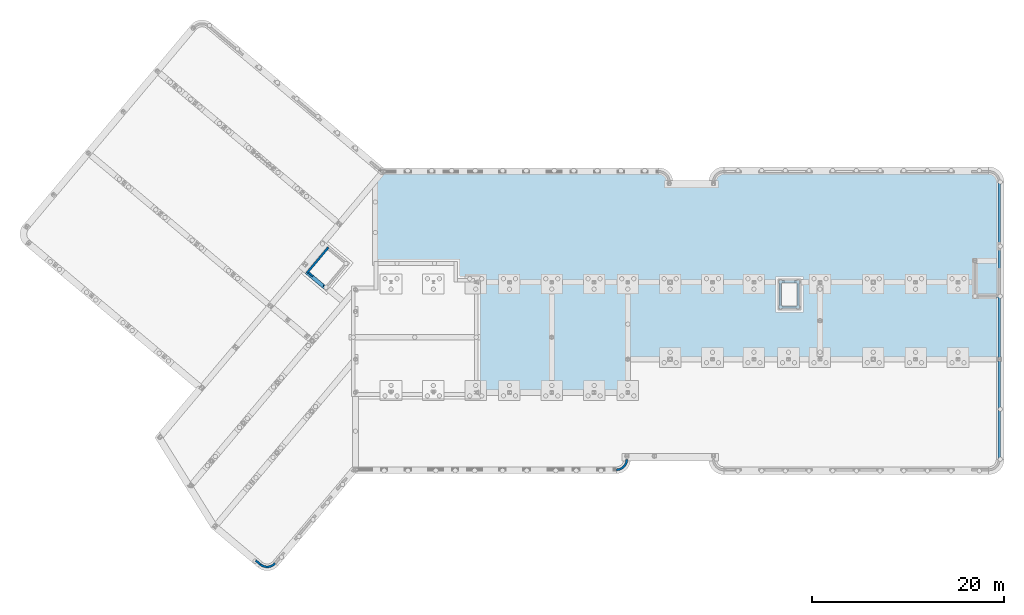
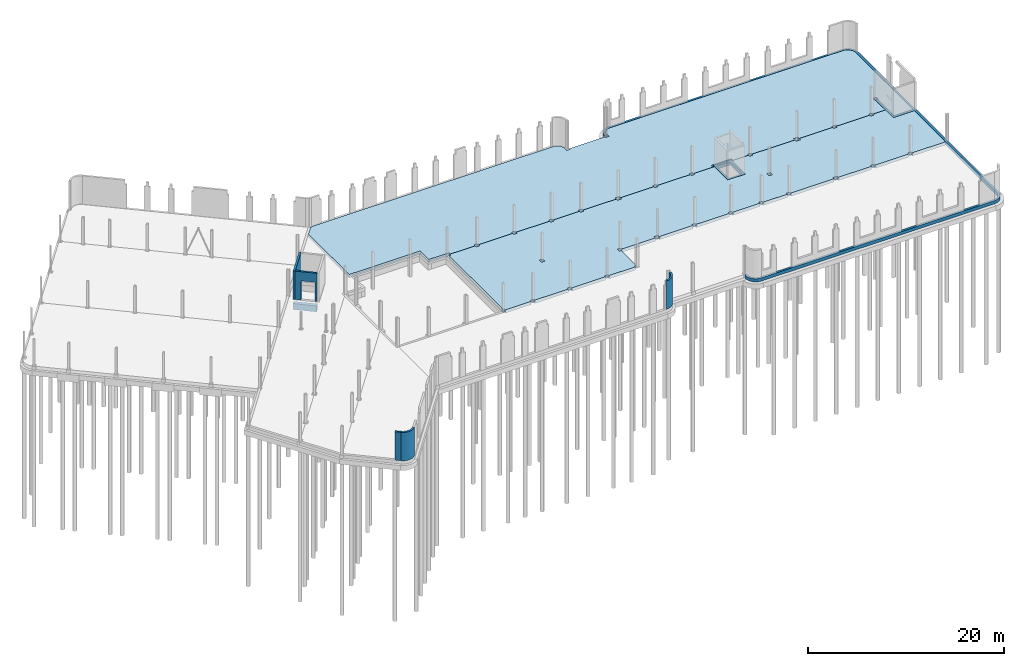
# One storey, part 21 of 26: 6 walls, 4 slabs, 2 openings.
"""IFC2X3 building model written with IfcOpenShell, lengths in millimetres."""

from ifc_helpers import new_model, entity, si_unit, converted_unit, derived_unit, direction, frame, frame_2d, origin, origin_2d_with_axis, place, context, subcontext, project, spatial, polyline, circle_curve, parameter, trimmed, segment, composite_curve, rectangle, outline, extrude, boolean, material, layer, layer_set, layer_usage, type_object, element, save


model = new_model("IFC2X3")

# Units and contexts
model_context = context("Model", 3, precision=0.01, world=origin(), true_north=direction((6.123031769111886e-17, 1.0)))
body_context = subcontext(model_context, "Body", "Model", "MODEL_VIEW")
ifc_project = project(units=[si_unit("LENGTHUNIT", "METRE", prefix="MILLI"), si_unit("AREAUNIT", "SQUARE_METRE"), si_unit("VOLUMEUNIT", "CUBIC_METRE"), derived_unit("MASSDENSITYUNIT", [(si_unit("MASSUNIT", "GRAM", prefix="KILO"), 1), (si_unit("LENGTHUNIT", "METRE"), -3)]), si_unit("MASSUNIT", "GRAM", prefix="KILO"), converted_unit("PLANEANGLEUNIT", "DEGREE", entity("IfcPlaneAngleMeasure", 0.017453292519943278), si_unit("PLANEANGLEUNIT", "RADIAN"), dimensions=[0, 0, 0, 0, 0, 0, 0])], contexts=[model_context])

# Site, building, storey
site_placement = place(None, origin())
site = spatial("IfcSite", under=ifc_project, at=site_placement, Name="Default", CompositionType="ELEMENT")
building_placement = place(site_placement, origin())
building = spatial("IfcBuilding", under=site, at=building_placement, Name="AT constructie", CompositionType="ELEMENT")
storey_placement = place(building_placement, origin())
storey = spatial("IfcBuildingStorey", under=building, at=storey_placement, Name="00 begane grond", CompositionType="ELEMENT", Elevation=-1.0828671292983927e-12)

# Slab
ifc_material_1 = material(Name="f2_beton ihwg_gen")
ifc_layer_1 = layer(ifc_material_1, 400.0)
ifc_layer_set_1 = layer_set([ifc_layer_1], Name="Floor:NLRS_23_FL_gewapend beton_400_opstort gen_AT")
ifc_layer_usage_1 = layer_usage(ifc_layer_set_1, "AXIS3", "POSITIVE", 0.0)
slab_type_1 = type_object("IfcSlabType", Name="NLRS_23_FL_gewapend beton_400_opstort gen_AT", PredefinedType="FLOOR", material=ifc_layer_set_1)
slab_1_placement = place(storey_placement, frame((20661.89347021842, 1584.4521505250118, -450.0)))
element("IfcSlab", 1, at=slab_1_placement, inside=storey, type_object=slab_type_1, material=ifc_layer_usage_1, Name="Floor:NLRS_23_FL_gewapend beton_400_opstort gen_AT", ObjectType="Floor:NLRS_23_FL_gewapend beton_400_opstort gen_AT", PredefinedType="FLOOR", context=body_context, shape_type="SweptSolid", body=[
    extrude(outline(composite_curve([segment(trimmed(circle_curve(frame_2d((-42542.49058044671, -17033.868130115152), x_axis=(-1.0, 0.0)), 1200.0000000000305), [parameter(359.9999999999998)], [parameter(89.99999999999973)], True, "PARAMETER"), True, "CONTINUOUS"), segment(polyline([(-42542.49058044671, -18233.8681301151), (-15042.490580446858, -18233.868130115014)]), True, "CONTINUOUS"), segment(trimmed(circle_curve(frame_2d((-15042.490580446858, -17033.86813011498), x_axis=(-1.0, 0.0)), 1200.0000000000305), [parameter(90.00000000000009)], [parameter(179.99999999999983)], True, "PARAMETER"), True, "CONTINUOUS"), segment(polyline([(-13842.490580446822, -17033.86813011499), (-13842.490580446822, -16898.868127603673)]), True, "CONTINUOUS"), segment(polyline([(-13842.490580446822, -16898.868127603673), (-14092.490580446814, -16898.868127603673)]), True, "CONTINUOUS"), segment(polyline([(-14092.490580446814, -16898.868127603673), (-14092.490580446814, -17033.86813011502)]), True, "CONTINUOUS"), segment(trimmed(circle_curve(frame_2d((-15042.490580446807, -17033.86813011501), x_axis=(-1.0, 0.0)), 950.0000000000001), [parameter(90.00000000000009)], [parameter(179.99999999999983)], True, "PARAMETER"), False, "CONTINUOUS"), segment(polyline([(-15042.490580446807, -17983.86813011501), (-42512.49058044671, -17983.8681301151)]), True, "CONTINUOUS"), segment(trimmed(circle_curve(frame_2d((-42512.49058044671, -17003.868130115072), x_axis=(-1.0, 0.0)), 980.0000000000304), [parameter(359.9999999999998)], [parameter(89.99999999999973)], True, "PARAMETER"), False, "CONTINUOUS"), segment(polyline([(-43492.490580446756, -17003.868130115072), (-43492.490580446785, -215.86813011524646)]), True, "CONTINUOUS"), segment(polyline([(-43492.490580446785, -215.86813011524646), (-40996.49058423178, -215.86813011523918)]), True, "CONTINUOUS"), segment(polyline([(-40996.49058423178, -215.86813011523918), (-40996.49058423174, 3396.1318698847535)]), True, "CONTINUOUS"), segment(polyline([(-40996.49058423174, 3396.1318698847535), (-41246.49058423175, 3396.1318698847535)]), True, "CONTINUOUS"), segment(polyline([(-41246.49058423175, 3396.1318698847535), (-41246.49058423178, 34.13186988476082)]), True, "CONTINUOUS"), segment(polyline([(-41246.49058423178, 34.13186988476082), (-43492.490580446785, 34.131869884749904)]), True, "CONTINUOUS"), segment(polyline([(-43492.490580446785, 34.131869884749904), (-43492.4905804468, 11736.131869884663)]), True, "CONTINUOUS"), segment(trimmed(circle_curve(frame_2d((-42512.49058044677, 11736.131869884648), x_axis=(-1.0, 0.0)), 980.0000000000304), [parameter(269.9999999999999)], [parameter(0.0)], True, "PARAMETER"), False, "CONTINUOUS"), segment(polyline([(-42512.49058044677, 12716.131869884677), (-15042.490580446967, 12716.131869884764)]), True, "CONTINUOUS"), segment(trimmed(circle_curve(frame_2d((-15042.490580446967, 11766.131869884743), x_axis=(-1.0, 0.0)), 950.0000000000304), [parameter(180.00000000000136)], [parameter(269.9999999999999)], True, "PARAMETER"), False, "CONTINUOUS"), segment(polyline([(-14092.490580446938, 11766.131869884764), (-13842.490580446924, 11766.131869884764)]), True, "CONTINUOUS"), segment(trimmed(circle_curve(frame_2d((-15042.490580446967, 11766.131869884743), x_axis=(-1.0, 0.0)), 1200.0000000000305), [parameter(180.00000000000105)], [parameter(269.9999999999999)], True, "PARAMETER"), True, "CONTINUOUS"), segment(polyline([(-15042.490580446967, 12966.131869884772), (-42542.490580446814, 12966.131869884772)]), True, "CONTINUOUS"), segment(trimmed(circle_curve(frame_2d((-42542.490580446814, 11766.131869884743), x_axis=(-1.0, 0.0)), 1200.0000000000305), [parameter(269.9999999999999)], [parameter(0.0)], True, "PARAMETER"), True, "CONTINUOUS"), segment(polyline([(-43742.4905804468, 11766.131869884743), (-43742.49058044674, -17033.868130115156)]), True, "CONTINUOUS")], self_intersect=False)), frame((43742.49058044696, 28320.45948811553, 400.0), z_axis=(0.0, 0.0, -1.0), x_axis=(-1.0, 0.0, 0.0)), (0.0, 0.0, 1.0), 400.0),
])

# Slab, opening
ifc_layer_usage_2 = layer_usage(ifc_layer_set_1, "AXIS3", "POSITIVE", 0.0)
slab_2_placement = place(storey_placement, origin())
slab_2 = element("IfcSlab", 2, at=slab_2_placement, inside=storey, type_object=slab_type_1, material=ifc_layer_usage_2, Name="Floor:NLRS_23_FL_gewapend beton_400_opstort gen_AT", ObjectType="Floor:NLRS_23_FL_gewapend beton_400_opstort gen_AT", PredefinedType="FLOOR", context=body_context, shape_type="SweptSolid", body=[
    boolean("DIFFERENCE", extrude(rectangle(XDim=2922.0000000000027, YDim=2099.9999999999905, at=frame_2d((-4.320099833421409e-12, 0.0), x_axis=(1.0, 0.0))), frame((86230.87463111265, 29996.043508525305, -50.0), z_axis=(0.0, 0.0, -1.0), x_axis=(0.0, 1.0, 0.0)), (0.0, 0.0, 1.0), 400.0), extrude(rectangle(XDim=2421.999999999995, YDim=1599.9999999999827, at=frame_2d((0.0, 8.697043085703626e-12), x_axis=(1.0, 0.0))), frame((86230.87463111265, 29996.043508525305, -450.0), z_axis=(0.0, 0.0, 1.0), x_axis=(0.0, 1.0, 0.0)), (0.0, 0.0, 1.0), 400.0)),
])
opening_1_placement = place(slab_2_placement, origin())
element("IfcOpeningElement", 3, at=opening_1_placement, cuts=slab_2, Name="Floor:NLRS_23_FL_gewapend beton_400_opstort gen_AT", ObjectType="Opening", context=body_context, shape_type="SweptSolid", body=[
    extrude(rectangle(XDim=1600.0, YDim=2421.999999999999, at=frame_2d((-8.697043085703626e-12, 0.0), x_axis=(1.0, 0.0))), frame((86230.87463111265, 29996.043508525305, -50.0), z_axis=(0.0, 0.0, -1.0), x_axis=(1.0, 0.0, 0.0)), (0.0, 0.0, 1.0), 400.0),
])

# Slabs
ifc_material_2 = material(Name="f2_beton_prefab_gen")
ifc_layer_2 = layer(ifc_material_2, 260.0)
ifc_material_3 = material(Name="n7_isolatie_gen")
ifc_layer_3 = layer(ifc_material_3, 140.0)
ifc_layer_set_2 = layer_set([ifc_layer_2, ifc_layer_3], Name="Floor:NLRS_23_FL_geissoleerde kanaalplaatvloer 260_gen_AT")
ifc_layer_usage_3 = layer_usage(ifc_layer_set_2, "AXIS3", "POSITIVE", 0.0)
slab_type_2 = type_object("IfcSlabType", Name="NLRS_23_FL_geissoleerde kanaalplaatvloer 260_gen_AT", PredefinedType="FLOOR", material=ifc_layer_set_2)
slab_3_placement = place(storey_placement, origin())
element("IfcSlab", 4, at=slab_3_placement, inside=storey, type_object=slab_type_2, material=ifc_layer_usage_3, Name="Floor:NLRS_23_FL_geissoleerde kanaalplaatvloer 260_gen_AT", ObjectType="Floor:NLRS_23_FL_geissoleerde kanaalplaatvloer 260_gen_AT", PredefinedType="FLOOR", context=body_context, shape_type="SweptSolid", body=[
    extrude(outline(composite_curve([segment(polyline([(-641.9511115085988, -36275.22809741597), (7699.137809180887, -36275.22809741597)]), True, "CONTINUOUS"), segment(polyline([(7699.137809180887, -36275.22809741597), (8656.548888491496, -35471.864813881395)]), True, "CONTINUOUS"), segment(polyline([(8656.548888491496, -35471.864813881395), (8656.548888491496, -35235.78584688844)]), True, "CONTINUOUS"), segment(polyline([(8656.548888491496, -35235.78584688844), (8708.048888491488, -35235.78584688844)]), True, "CONTINUOUS"), segment(polyline([(8708.048888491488, -35235.78584688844), (8708.048888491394, -6845.2280974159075)]), True, "CONTINUOUS"), segment(trimmed(circle_curve(frame_2d((7758.048888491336, -6845.2280974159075), x_axis=(1.0, 0.0)), 950.0000000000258), [parameter(0.0)], [parameter(85.77437608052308)], True, "PARAMETER"), True, "CONTINUOUS"), segment(polyline([(7828.048888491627, -5897.810554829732), (7828.048888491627, -5941.22809921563)]), True, "CONTINUOUS"), segment(polyline([(7828.048888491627, -5941.22809921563), (7428.048888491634, -5941.22809921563)]), True, "CONTINUOUS"), segment(polyline([(7428.048888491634, -5941.22809921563), (7428.048888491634, -5541.22809921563)]), True, "CONTINUOUS"), segment(polyline([(7428.048888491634, -5541.22809921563), (7558.0488884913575, -5541.22809921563)]), True, "CONTINUOUS"), segment(polyline([(7558.0488884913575, -5541.22809921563), (7558.0488884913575, -1338.2280974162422)]), True, "CONTINUOUS"), segment(polyline([(7558.0488884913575, -1338.2280974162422), (7428.048888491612, -1338.2280974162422)]), True, "CONTINUOUS"), segment(polyline([(7428.048888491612, -1338.2280974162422), (7428.048888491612, -938.2280974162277)]), True, "CONTINUOUS"), segment(polyline([(7428.048888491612, -938.2280974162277), (7828.048888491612, -938.2280974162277)]), True, "CONTINUOUS"), segment(polyline([(7828.048888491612, -938.2280974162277), (7828.048888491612, -992.6456400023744)]), True, "CONTINUOUS"), segment(trimmed(circle_curve(frame_2d((7758.048888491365, -45.22809741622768), x_axis=(0.07368421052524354, -0.9972816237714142)), 949.999999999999), [parameter(0.0)], [parameter(85.77437608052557)], True, "PARAMETER"), True, "CONTINUOUS"), segment(polyline([(8708.048888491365, -45.22809741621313), (8708.048888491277, 27424.771902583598)]), True, "CONTINUOUS"), segment(trimmed(circle_curve(frame_2d((7728.048888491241, 27424.771902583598), x_axis=(1.0, 0.0)), 980.0000000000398), [parameter(0.0)], [parameter(89.99999999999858)], True, "PARAMETER"), True, "CONTINUOUS"), segment(polyline([(7728.048888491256, 28404.771902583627), (-3973.951111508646, 28404.771902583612)]), True, "CONTINUOUS"), segment(polyline([(-3973.951111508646, 28404.771902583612), (-3973.951111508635, 26158.77190636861)]), True, "CONTINUOUS"), segment(polyline([(-3973.951111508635, 26158.77190636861), (-611.9511115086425, 26158.77190636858)]), True, "CONTINUOUS"), segment(polyline([(-611.9511115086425, 26158.77190636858), (-611.9511115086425, 26233.77190457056)]), True, "CONTINUOUS"), segment(polyline([(-611.9511115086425, 26233.77190457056), (-211.9511115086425, 26233.77190457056)]), True, "CONTINUOUS"), segment(polyline([(-211.9511115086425, 26233.77190457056), (-211.9511115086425, 25833.77190457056)]), True, "CONTINUOUS"), segment(polyline([(-211.9511115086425, 25833.77190457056), (-611.9511115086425, 25833.77190457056)]), True, "CONTINUOUS"), segment(polyline([(-611.9511115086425, 25833.77190457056), (-611.9511115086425, 25908.771906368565)]), True, "CONTINUOUS"), segment(polyline([(-611.9511115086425, 25908.771906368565), (-2641.951111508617, 25908.77190636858)]), True, "CONTINUOUS"), segment(polyline([(-2641.951111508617, 25908.77190636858), (-2641.951111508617, 24460.271900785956)]), True, "CONTINUOUS"), segment(polyline([(-2641.951111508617, 24460.271900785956), (-2441.951111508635, 24460.271900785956)]), True, "CONTINUOUS"), segment(polyline([(-2441.951111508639, 24460.271900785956), (-2441.951111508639, 24060.27190078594)]), True, "CONTINUOUS"), segment(polyline([(-2441.951111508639, 24060.27190078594), (-2641.951111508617, 24060.27190078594)]), True, "CONTINUOUS"), segment(polyline([(-2641.951111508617, 24060.27190078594), (-2641.951111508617, 20054.771902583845)]), True, "CONTINUOUS"), segment(polyline([(-2641.951111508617, 20054.771902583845), (-2441.95111150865, 20054.771902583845)]), True, "CONTINUOUS"), segment(polyline([(-2441.9511115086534, 20054.771902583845), (-2441.9511115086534, 19654.77190258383)]), True, "CONTINUOUS"), segment(polyline([(-2441.9511115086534, 19654.77190258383), (-2641.951111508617, 19654.77190258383)]), True, "CONTINUOUS"), segment(polyline([(-2641.951111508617, 19654.77190258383), (-2641.9511115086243, 15704.771902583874)]), True, "CONTINUOUS"), segment(polyline([(-2641.9511115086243, 15704.771902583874), (-2391.951111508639, 15704.771902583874)]), True, "CONTINUOUS"), segment(polyline([(-2391.951111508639, 15704.771902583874), (-2391.951111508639, 15204.77190258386)]), True, "CONTINUOUS"), segment(polyline([(-2391.951111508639, 15204.771902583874), (-2641.9511115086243, 15204.771902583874)]), True, "CONTINUOUS"), segment(polyline([(-2641.9511115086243, 15204.771902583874), (-2641.9511115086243, 10115.271902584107)]), True, "CONTINUOUS"), segment(polyline([(-2641.9511115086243, 10115.271902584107), (-2441.9511115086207, 10115.271902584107)]), True, "CONTINUOUS"), segment(polyline([(-2441.9511115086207, 10115.271902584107), (-2441.9511115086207, 9715.271902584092)]), True, "CONTINUOUS"), segment(polyline([(-2441.9511115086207, 9715.271902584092), (-2641.9511115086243, 9715.271902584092)]), True, "CONTINUOUS"), segment(polyline([(-2641.9511115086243, 9715.271902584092), (-2641.9511115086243, 7938.771902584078)]), True, "CONTINUOUS"), segment(polyline([(-2641.9511115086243, 7938.771902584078), (-2305.9511115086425, 7938.771902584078)]), True, "CONTINUOUS"), segment(polyline([(-2305.9511115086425, 7938.771902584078), (-2305.951111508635, 5538.771902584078)]), True, "CONTINUOUS"), segment(polyline([(-2305.951111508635, 5538.771902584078), (-2641.9511115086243, 5538.771902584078)]), True, "CONTINUOUS"), segment(polyline([(-2641.9511115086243, 5538.771902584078), (-2641.9511115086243, 3254.7719025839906)]), True, "CONTINUOUS"), segment(polyline([(-2641.9511115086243, 3254.7719025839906), (-2441.951111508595, 3254.7719025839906)]), True, "CONTINUOUS"), segment(polyline([(-2441.951111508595, 3254.7719025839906), (-2441.951111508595, 2854.771902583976)]), True, "CONTINUOUS"), segment(polyline([(-2441.951111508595, 2854.771902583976), (-2641.9511115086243, 2854.771902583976)]), True, "CONTINUOUS"), segment(polyline([(-2641.9511115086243, 2854.771902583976), (-2641.9511115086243, -1045.2280974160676)]), True, "CONTINUOUS"), segment(polyline([(-2641.9511115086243, -1045.2280974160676), (-2441.9511115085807, -1045.2280974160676)]), True, "CONTINUOUS"), segment(polyline([(-2441.9511115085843, -1045.2280974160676), (-2441.9511115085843, -1445.2280974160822)]), True, "CONTINUOUS"), segment(polyline([(-2441.9511115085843, -1445.2280974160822), (-2641.951111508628, -1445.2280974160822)]), True, "CONTINUOUS"), segment(polyline([(-2641.9511115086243, -1445.2280974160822), (-2641.951111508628, -5395.228097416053)]), True, "CONTINUOUS"), segment(polyline([(-2641.951111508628, -5395.2280974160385), (-2391.9511115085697, -5395.2280974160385)]), True, "CONTINUOUS"), segment(polyline([(-2391.9511115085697, -5395.2280974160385), (-2391.9511115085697, -5895.228097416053)]), True, "CONTINUOUS"), segment(polyline([(-2391.9511115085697, -5895.228097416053), (-2641.951111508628, -5895.228097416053)]), True, "CONTINUOUS"), segment(polyline([(-2641.951111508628, -5895.228097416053), (-2641.951111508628, -9845.228097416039)]), True, "CONTINUOUS"), segment(polyline([(-2641.951111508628, -9845.228097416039), (-2441.951111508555, -9845.228097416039)]), True, "CONTINUOUS"), segment(polyline([(-2441.951111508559, -9845.228097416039), (-2441.951111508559, -10245.228097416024)]), True, "CONTINUOUS"), segment(polyline([(-2441.951111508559, -10245.228097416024), (-2641.951111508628, -10245.228097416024)]), True, "CONTINUOUS"), segment(polyline([(-2641.951111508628, -10245.228097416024), (-2641.951111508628, -13345.228097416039)]), True, "CONTINUOUS"), segment(polyline([(-2641.951111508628, -13345.228097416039), (-2441.9511115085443, -13345.228097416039)]), True, "CONTINUOUS"), segment(polyline([(-2441.9511115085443, -13345.228097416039), (-2441.9511115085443, -13745.228097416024)]), True, "CONTINUOUS"), segment(polyline([(-2441.9511115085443, -13745.228097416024), (-2641.951111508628, -13745.228097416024)]), True, "CONTINUOUS"), segment(polyline([(-2641.951111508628, -13745.228097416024), (-2641.951111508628, -17745.22809741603)]), True, "CONTINUOUS"), segment(polyline([(-2641.951111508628, -17745.228097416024), (-2441.9511115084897, -17745.228097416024)]), True, "CONTINUOUS"), segment(polyline([(-2441.9511115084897, -17745.228097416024), (-2441.9511115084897, -18145.228097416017)]), True, "CONTINUOUS"), segment(polyline([(-2441.9511115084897, -18145.228097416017), (-2641.9511115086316, -18145.228097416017)]), True, "CONTINUOUS"), segment(polyline([(-2641.9511115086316, -18145.228097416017), (-2641.9511115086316, -22145.22809741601)]), True, "CONTINUOUS"), segment(polyline([(-2641.9511115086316, -22145.22809741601), (-2441.951111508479, -22145.22809741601)]), True, "CONTINUOUS"), segment(polyline([(-2441.9511115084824, -22145.22809741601), (-2441.9511115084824, -22545.228097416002)]), True, "CONTINUOUS"), segment(polyline([(-2441.9511115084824, -22545.228097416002), (-2641.9511115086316, -22545.228097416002)]), True, "CONTINUOUS"), segment(polyline([(-2641.9511115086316, -22545.228097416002), (-2641.9511115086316, -25495.22809741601)]), True, "CONTINUOUS"), segment(polyline([(-2641.9511115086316, -25495.22809741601), (-2391.9511115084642, -25495.22809741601)]), True, "CONTINUOUS"), segment(polyline([(-2391.9511115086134, -25495.22809741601), (-2391.951111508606, -27875.228097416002)]), True, "CONTINUOUS"), segment(polyline([(-2391.951111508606, -27875.228097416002), (-641.951111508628, -27875.228097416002)]), True, "CONTINUOUS"), segment(polyline([(-641.951111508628, -27875.228097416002), (-641.9511115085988, -36275.22809741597)]), True, "CONTINUOUS")], self_intersect=False)), frame((79492.10272852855, 33912.99462003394, -50.0), z_axis=(0.0, 0.0, -1.0), x_axis=(0.0, 1.0, 0.0)), (0.0, 0.0, 1.0), 400.0),
])
ifc_layer_usage_4 = layer_usage(ifc_layer_set_2, "AXIS3", "POSITIVE", 0.0)
slab_4_placement = place(storey_placement, origin())
element("IfcSlab", 5, at=slab_4_placement, inside=storey, type_object=slab_type_2, material=ifc_layer_usage_4, Name="Floor:NLRS_23_FL_geissoleerde kanaalplaatvloer 260_gen_AT", ObjectType="Floor:NLRS_23_FL_geissoleerde kanaalplaatvloer 260_gen_AT", PredefinedType="FLOOR", context=body_context, shape_type="SweptSolid", body=[
    boolean("DIFFERENCE", boolean("DIFFERENCE", extrude(outline(polyline([(-6482.714285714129, -26090.366071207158), (4567.2857142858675, -26090.366071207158), (4567.2857142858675, -25940.366071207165), (4767.2857142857, -25940.366071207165), (4767.2857142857, -22890.36607120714), (4567.28571428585, -22890.36607120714), (4567.285714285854, -22490.366071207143), (4767.285714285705, -22490.366071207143), (4767.2857142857, -18490.36607120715), (4567.285714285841, -18490.36607120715), (4567.285714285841, -18090.366071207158), (4767.285714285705, -18090.366071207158), (4767.285714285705, -14090.366071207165), (4567.285714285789, -14090.366071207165), (4567.285714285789, -13690.366071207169), (4767.285714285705, -13690.366071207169), (4767.285714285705, -10590.366071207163), (4567.285714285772, -10590.366071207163), (4567.2857142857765, -10190.366071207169), (4767.285714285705, -10190.366071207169), (4767.285714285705, -6240.366071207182), (4517.285714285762, -6240.366071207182), (4517.285714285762, -5740.366071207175), (4767.285714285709, -5740.366071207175), (4767.285714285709, -1790.366071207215), (4567.285714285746, -1790.366071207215), (4567.28571428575, -1390.3660712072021), (4767.285714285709, -1390.3660712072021), (4767.285714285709, 2509.6339287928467), (4567.285714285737, 2509.6339287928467), (4567.285714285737, 2909.63392879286), (4767.285714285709, 2909.63392879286), (4767.285714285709, 5343.633928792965), (2031.28571428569, 5343.633928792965), (2031.2857142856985, 7443.633928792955), (4767.285714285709, 7443.633928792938), (4767.285714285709, 9370.133928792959), (4567.285714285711, 9370.133928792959), (4567.285714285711, 9770.133928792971), (4767.285714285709, 9770.133928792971), (4767.285714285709, 14859.633928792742), (4517.285714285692, 14859.633928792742), (4517.285714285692, 15359.63392879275), (4767.285714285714, 15359.633928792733), (4767.285714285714, 19309.6339287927), (4567.2857142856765, 19309.6339287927), (4567.285714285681, 19709.633928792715), (4767.285714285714, 19709.633928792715), (4767.285714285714, 23715.133926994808), (4567.285714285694, 23715.133926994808), (4567.285714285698, 24115.13392699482), (4767.285714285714, 24115.13392699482), (4767.285714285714, 25563.63393257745), (3185.285714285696, 25563.633932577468), (3185.2857142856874, 28059.63392879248), (-3032.7142857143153, 28059.63392879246), (-3032.7142857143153, 28012.13392699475), (-3232.714285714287, 28012.13392699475), (-3232.714285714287, 24115.133926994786), (-3032.714285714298, 24115.133926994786), (-3032.714285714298, 23715.13392699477), (-3232.7142857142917, 23715.13392699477), (-3232.714285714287, 19715.133926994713), (-3032.714285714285, 19715.133926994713), (-3032.7142857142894, 19315.1339269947), (-3232.7142857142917, 19315.1339269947), (-3232.7142857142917, 15365.13392699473), (-2982.714285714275, 15365.13392699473), (-2982.714285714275, 14865.133926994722), (-3232.7142857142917, 14865.13392699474), (-3232.7142857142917, 9770.133928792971), (-3032.714285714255, 9770.133928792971), (-3032.714285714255, 9370.133928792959), (-3232.7142857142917, 9370.133928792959), (-3232.7142857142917, 6509.633928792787), (-3032.7142857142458, 6509.633928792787), (-3032.7142857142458, 6109.633928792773), (-3232.714285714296, 6109.633928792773), (-3232.7142857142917, 2909.6339287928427), (-3032.714285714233, 2909.6339287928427), (-3032.714285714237, 2509.6339287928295), (-3232.714285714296, 2509.6339287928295), (-3232.714285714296, -1390.3660712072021), (-3032.71428571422, -1390.3660712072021), (-3032.71428571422, -1790.366071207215), (-3232.714285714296, -1790.366071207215), (-3232.714285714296, -5740.366071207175), (-2982.71428571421, -5740.366071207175), (-2982.71428571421, -6240.366071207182), (-3232.714285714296, -6240.366071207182), (-3232.714285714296, -10190.366071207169), (-3032.714285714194, -10190.366071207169), (-3032.714285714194, -10590.366071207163), (-3432.714285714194, -10590.366071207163), (-3432.714285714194, -10390.366071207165), (-6482.714285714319, -10390.366071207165), (-6482.714285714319, -10590.366071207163), (-6682.714285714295, -10590.366071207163), (-6682.714285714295, -13690.366071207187), (-6482.714285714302, -13690.366071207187), (-6482.714285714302, -14090.366071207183), (-6682.714285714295, -14090.366071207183), (-6682.714285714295, -18090.366071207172), (-6482.714285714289, -18090.366071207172), (-6482.7142857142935, -18490.36607120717), (-6682.7142857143, -18490.36607120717), (-6682.7142857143, -22490.36607120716), (-6482.714285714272, -22490.36607120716), (-6482.714285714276, -22890.366071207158), (-6682.7142857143, -22890.366071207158), (-6682.7142857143, -25940.366071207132), (-6482.714285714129, -25940.366071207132), (-6482.714285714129, -26090.366071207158)])), frame((79837.24070231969, 26503.75779423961, -50.0), z_axis=(0.0, 0.0, -1.0), x_axis=(0.0, 1.0, 0.0)), (0.0, 0.0, 1.0), 400.0), extrude(rectangle(XDim=399.9999999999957, YDim=399.9999999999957, at=frame_2d((0.0, 8.668621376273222e-12), x_axis=(1.0, 0.0))), frame((61546.874631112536, 25546.04350852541, -450.0), z_axis=(0.0, 0.0, 1.0), x_axis=(0.0, 1.0, 0.0)), (0.0, 0.0, 1.0), 400.0)), extrude(rectangle(XDim=399.9999999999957, YDim=400.000000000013, at=origin_2d_with_axis()), frame((89407.37463111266, 27271.04350852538, -450.0), z_axis=(0.0, 0.0, 1.0), x_axis=(0.0, 1.0, 0.0)), (0.0, 0.0, 1.0), 400.0)),
])

# Walls
ifc_material_4 = material(Name="f1_kalkzandsteen_CS36")
ifc_layer_4 = layer(ifc_material_4, 214.0)
ifc_layer_set_3 = layer_set([ifc_layer_4], Name="Basic Wall:NLRS_22_WA_kalkzandsteen 214_CS36 gen_AT")
ifc_layer_usage_5 = layer_usage(ifc_layer_set_3, "AXIS2", "NEGATIVE", 107.0)
wall_type_1 = type_object("IfcWallType", Name="NLRS_22_WA_kalkzandsteen 214_CS36 gen_AT", PredefinedType="STANDARD", material=ifc_layer_set_3)
wall_1_placement = place(storey_placement, frame((69339.8746311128, 12871.043508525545, -50.0)))
element("IfcWallStandardCase", 6, at=wall_1_placement, inside=storey, type_object=wall_type_1, material=ifc_layer_usage_5, Name="Basic Wall:NLRS_22_WA_kalkzandsteen 214_CS36 gen_AT", ObjectType="Basic Wall:NLRS_22_WA_kalkzandsteen 214_CS36 gen_AT", context=body_context, shape_type="SweptSolid", body=[
    extrude(outline(composite_curve([segment(trimmed(circle_curve(frame_2d((-1093.0, 0.0), x_axis=(1.0, 0.0)), 1200.0000000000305), [parameter(269.9999999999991)], [parameter(359.99999999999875)], True, "PARAMETER"), True, "CONTINUOUS"), segment(polyline([(107.0, 0.0), (-107.0, 0.0)]), True, "CONTINUOUS"), segment(trimmed(circle_curve(frame_2d((-1093.0, 0.0), x_axis=(1.0, 0.0)), 986.0000000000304), [parameter(269.9999999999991)], [parameter(359.99999999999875)], True, "PARAMETER"), False, "CONTINUOUS"), segment(polyline([(-1093.0, -986.0), (-1093.0, -1200.0)]), True, "CONTINUOUS")], self_intersect=False)), origin(), (0.0, 0.0, 1.0), 3544.000000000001),
])
ifc_layer_usage_6 = layer_usage(ifc_layer_set_3, "AXIS2", "POSITIVE", -107.0)
wall_2_placement = place(storey_placement, frame((32794.092488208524, 2054.1612376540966, -50.0)))
element("IfcWallStandardCase", 7, at=wall_2_placement, inside=storey, type_object=wall_type_1, material=ifc_layer_usage_6, Name="Basic Wall:NLRS_22_WA_kalkzandsteen 214_CS36 gen_AT", ObjectType="Basic Wall:NLRS_22_WA_kalkzandsteen 214_CS36 gen_AT", context=body_context, shape_type="SweptSolid", body=[
    extrude(outline(composite_curve([segment(trimmed(circle_curve(frame_2d((-813.4140845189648, 730.0729601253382), x_axis=(1.0, 0.0)), 1200.0), [parameter(229.96819074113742)], [parameter(318.09070439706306)], True, "PARAMETER"), True, "CONTINUOUS"), segment(polyline([(79.62974111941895, -71.47100341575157), (-81.89912503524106, 68.95128898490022)]), True, "CONTINUOUS"), segment(trimmed(circle_curve(frame_2d((-813.4140845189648, 730.0729601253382), x_axis=(1.0, 0.0)), 986.0), [parameter(229.96819074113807)], [parameter(317.8936540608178)], True, "PARAMETER"), False, "CONTINUOUS"), segment(polyline([(-1447.6219056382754, -24.894880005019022), (-1585.269444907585, -188.75199743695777)]), True, "CONTINUOUS")], self_intersect=False)), origin(), (0.0, 0.0, 1.0), 3544.000000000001),
])
ifc_layer_usage_7 = layer_usage(ifc_layer_set_3, "AXIS2", "NEGATIVE", 107.0)
wall_3_placement = place(storey_placement, frame((31277.64682354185, 1947.3378115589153, -50.0), z_axis=(0.0, 0.0, 1.0), x_axis=(-0.7660444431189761, 0.6427876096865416, 0.0)))
element("IfcWallStandardCase", 8, at=wall_3_placement, inside=storey, type_object=wall_type_1, material=ifc_layer_usage_7, Name="Basic Wall:NLRS_22_WA_kalkzandsteen 214_CS36 gen_AT", ObjectType="Basic Wall:NLRS_22_WA_kalkzandsteen 214_CS36 gen_AT", context=body_context, shape_type="SweptSolid", body=[
    extrude(rectangle(XDim=645.0594038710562, YDim=214.0000000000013, at=frame_2d((322.5297019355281, -2.3447910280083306e-13), x_axis=(-1.0, 0.0))), origin(), (0.0, 0.0, 1.0), 3544.000000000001),
])
ifc_material_5 = material(Name="f1_kalkzandsteen_CS20")
ifc_layer_5 = layer(ifc_material_5, 214.0)
ifc_layer_set_4 = layer_set([ifc_layer_5], Name="Basic Wall:NLRS_22_WA_kalkzandsteen 214_CS20_gen_AT")
ifc_layer_usage_8 = layer_usage(ifc_layer_set_4, "AXIS2", "POSITIVE", -107.0)
wall_type_2 = type_object("IfcWallType", Name="NLRS_22_WA_kalkzandsteen 214_CS20_gen_AT", PredefinedType="STANDARD", material=ifc_layer_set_4)
wall_4_placement = place(storey_placement, frame((38336.94433207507, 34883.24807736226, -50.0), z_axis=(0.0, 0.0, 1.0), x_axis=(-0.6427876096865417, -0.7660444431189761, 0.0)))
element("IfcWallStandardCase", 9, at=wall_4_placement, inside=storey, type_object=wall_type_2, material=ifc_layer_usage_8, Name="Basic Wall:NLRS_22_WA_kalkzandsteen 214_CS20_gen_AT", ObjectType="Basic Wall:NLRS_22_WA_kalkzandsteen 214_CS20_gen_AT", context=body_context, shape_type="SweptSolid", body=[
    extrude(rectangle(XDim=3438.0000000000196, YDim=214.00000000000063, at=frame_2d((1719.0000000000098, 5.613287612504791e-13), x_axis=(-1.0, 0.0))), origin(), (0.0, 0.0, 1.0), 3544.000000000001),
])

# Wall, opening
ifc_layer_usage_9 = layer_usage(ifc_layer_set_4, "AXIS2", "POSITIVE", -107.0)
wall_5_placement = place(storey_placement, frame((36277.78555962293, 32262.775763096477, -50.0), z_axis=(0.0, 0.0, 1.0), x_axis=(0.7660444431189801, -0.6427876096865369, 0.0)))
wall_5 = element("IfcWallStandardCase", 10, at=wall_5_placement, inside=storey, type_object=wall_type_2, material=ifc_layer_usage_9, Name="Basic Wall:NLRS_22_WA_kalkzandsteen 214_CS20_gen_AT", ObjectType="Basic Wall:NLRS_22_WA_kalkzandsteen 214_CS20_gen_AT", context=body_context, shape_type="SweptSolid", body=[
    extrude(rectangle(XDim=2260.0000000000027, YDim=214.00000000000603, at=frame_2d((1129.999999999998, -2.3518964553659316e-12), x_axis=(-1.0, 0.0))), origin(), (0.0, 0.0, 1.0), 3544.000000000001),
])
opening_2_placement = place(wall_5_placement, frame((-7052.2835219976, -48033.631157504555, 50.0), z_axis=(0.0, 0.0, 1.0), x_axis=(0.7660444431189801, 0.6427876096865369, 0.0)))
element("IfcOpeningElement", 11, at=opening_2_placement, cuts=wall_5, Name="Basic Wall:NLRS_22_WA_kalkzandsteen 214_CS20_gen_AT", ObjectType="Opening", context=body_context, shape_type="SweptSolid", body=[
    extrude(rectangle(XDim=2400.0, YDim=1449.9999999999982, at=frame_2d((-1.4210854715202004e-12, 0.0), x_axis=(0.0, 1.0))), frame((36244.40785535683, 30161.66369353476, 1150.0), z_axis=(0.6427876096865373, 0.7660444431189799, 0.0), x_axis=(0.7660444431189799, -0.6427876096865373, 0.0)), (0.0, 0.0, 1.0), 3048.0),
])

# Wall
ifc_layer_6 = layer(ifc_material_1, 400.0)
ifc_layer_set_5 = layer_set([ifc_layer_6], Name="Basic Wall:NLRS_21_WA_beton ihw 400_gen_AT")
ifc_layer_usage_10 = layer_usage(ifc_layer_set_5, "AXIS2", "NEGATIVE", 200.0)
wall_type_3 = type_object("IfcWallType", Name="NLRS_21_WA_beton ihw 400_gen_AT", PredefinedType="STANDARD", material=ifc_layer_set_5)
wall_6_placement = place(storey_placement, frame((37949.26675337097, 30738.833631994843, -1200.0), z_axis=(0.0, 0.0, 1.0), x_axis=(-0.7660444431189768, 0.642787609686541, 0.0)))
element("IfcWallStandardCase", 12, at=wall_6_placement, inside=storey, type_object=wall_type_3, material=ifc_layer_usage_10, Name="Basic Wall:NLRS_21_WA_beton ihw 400_gen_AT", ObjectType="Basic Wall:NLRS_21_WA_beton ihw 400_gen_AT", context=body_context, shape_type="SweptSolid", body=[
    extrude(rectangle(XDim=2459.9999999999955, YDim=399.999999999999, at=frame_2d((1229.9999999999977, 1.6626700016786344e-12), x_axis=(-1.0, 0.0))), origin(), (0.0, 0.0, 1.0), 750.0),
])

save(model, "model.ifc")
